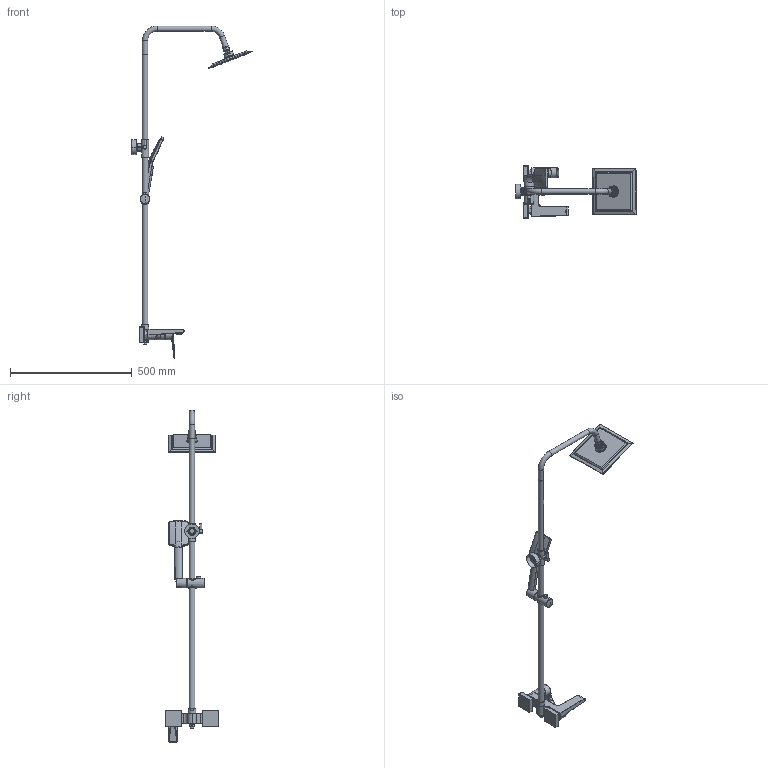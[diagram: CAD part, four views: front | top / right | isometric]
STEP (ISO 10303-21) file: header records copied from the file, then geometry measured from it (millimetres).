
FILE_DESCRIPTION(/* description */ (''),/* implementation_level */ '2;1');
FILE_NAME(/* name */ '大淋浴1.stp',/* time_stamp */ '2024-06-17T21:21:42+08:00',/* author */ (''),/* organization */ (''),/* preprocessor_version */ 'ST-DEVELOPER v16.7',/* originating_system */ 'SIEMENS PLM Software NX 12.0',/* authorisation */ '');
FILE_SCHEMA (('AUTOMOTIVE_DESIGN { 1 0 10303 214 3 1 1 1 }'));
Products named in the file (1): Admi0E4804A58581
Bounding box: 495.11 x 214 x 1362.75 mm (x, y, z)
Volume: 2080585 mm3; surface area: 406457.4 mm2
Topology: 75 solids, 75 shells, 4429 faces, 12210 edges, 8024 vertices
Faces by surface type: plane 2364, cylinder 1744, torus 108, bspline 107, cone 85, sphere 21
Full cylindrical faces by diameter (mm): 1 x46, 5 x10, 7 x1, 8 x1, 8.9 x1, 13 x1, 15 x2, 17 x1, 17.2 x1, 19.1 x1, 20 x1, 21.5 x4, 24 x1, 25.8 x1, 28 x1, 29 x1, 30 x1, 39 x1, 42 x1, 42.5 x1
Entity records: 192516 total; most frequent: CARTESIAN_POINT 79269, ORIENTED_EDGE 24004, DIRECTION 21137, EDGE_CURVE 12002, VERTEX_POINT 7981, LINE 7589, VECTOR 7589, AXIS2_PLACEMENT_3D 6774
